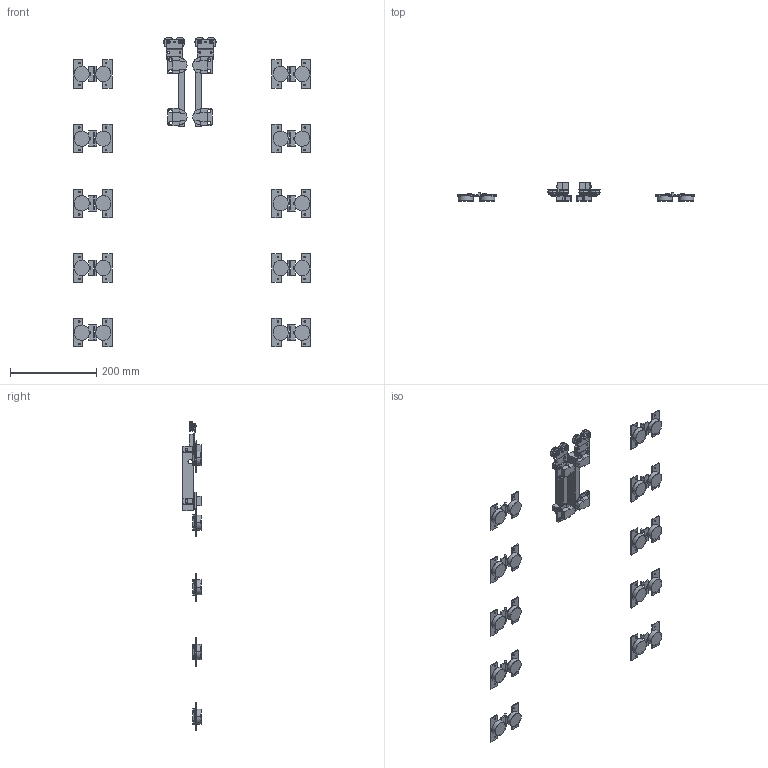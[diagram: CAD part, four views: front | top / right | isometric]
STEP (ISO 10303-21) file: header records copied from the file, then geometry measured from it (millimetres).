
FILE_DESCRIPTION( ( '' ), '1' );
FILE_NAME( '//10.120.51.241/design/Data Transfer/sunil/79015.stp', '2013-09-13T11:19:39', ( '' ), ( '' ), ' ', ' ', ' ' );
FILE_SCHEMA( ( 'automotive_design' ) );
Length unit declared in the file: millimetre
Products named in the file (12): 1; 2; 3; 4; 5; 6; 7; 8; 9; 10; 11; 12
Bounding box: 551.6 x 42.63 x 718.5 mm (x, y, z)
Volume: 362252.7 mm3; surface area: 244487.9 mm2
Topology: 12 solids, 12 shells, 1548 faces, 4726 edges, 3028 vertices
Faces by surface type: plane 976, cylinder 556, torus 16
Entity records: 105157 total; most frequent: CARTESIAN_POINT 9454, ORIENTED_EDGE 9452, DIRECTION 9442, STYLED_ITEM 9314, PRESENTATION_STYLE_ASSIGNMENT 9314, COLOUR_RGB 9314, EDGE_CURVE 4726, CURVE_STYLE 4726
